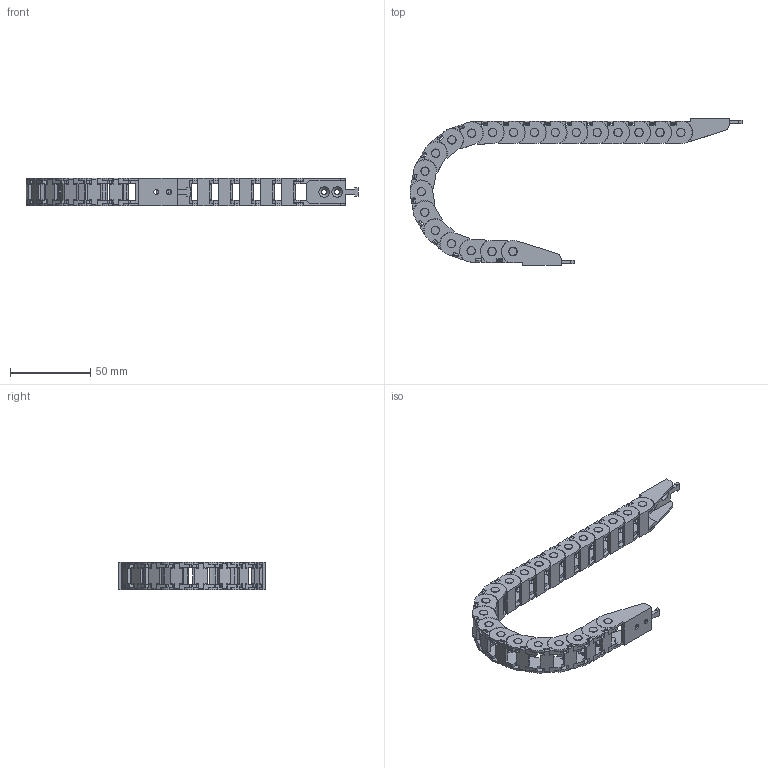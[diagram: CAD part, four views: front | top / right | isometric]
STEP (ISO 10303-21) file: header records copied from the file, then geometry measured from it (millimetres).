
FILE_DESCRIPTION(/* description */ (''),/* implementation_level */ '2;1');
FILE_NAME(/* name */ 'HSP 0130-1BN 37R 20Link_203.stp',/* time_stamp */ '2017-07-24T15:49:07+09:00',/* author */ (''),/* organization */ (''),/* preprocessor_version */ 'ST-DEVELOPER v11',/* originating_system */ 'SIEMENS UGS NX 6.0',/* authorisation */ '');
FILE_SCHEMA (('CONFIG_CONTROL_DESIGN'));
Length unit declared in the file: millimetre
Products named in the file (1): HSP 0130-1BN 37R 20Link
Bounding box: 206.34 x 91 x 17.4 mm (x, y, z)
Volume: 30240.1 mm3; surface area: 44353.7 mm2
Topology: 42 solids, 42 shells, 1738 faces, 4836 edges, 3224 vertices
Faces by surface type: plane 1216, cylinder 518, cone 4
Full cylindrical faces by diameter (mm): 3.2 x4, 5 x40, 5.2 x44
Entity records: 55214 total; most frequent: CARTESIAN_POINT 9695, ORIENTED_EDGE 9476, DIRECTION 9296, EDGE_CURVE 4738, LINE 3658, VECTOR 3658, VERTEX_POINT 3218, AXIS2_PLACEMENT_3D 2819
